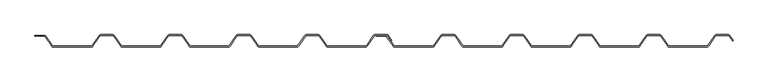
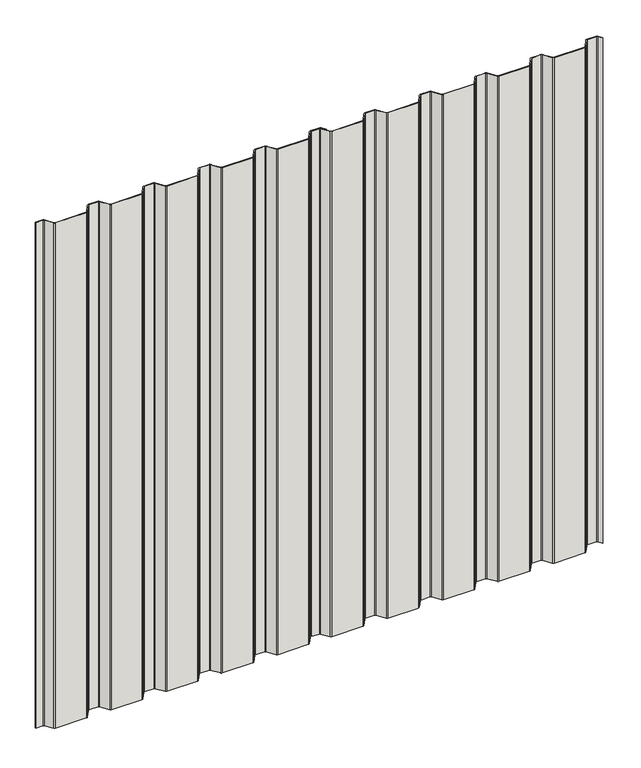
"""IFC4 building model written with IfcOpenShell, lengths in millimetres: wall geometry, Curtain Wall:21_CW_gevelbeplating_SAB35_1035:60482 : Curtain Wall:21_CW_gevelbeplating_SAB35_1035:60482."""

import ifcopenshell
import ifcopenshell.guid

model = None  # the IFC model being written
_history = None  # IfcOwnerHistory: only IFC2X3 demands one
_inside = {}  # id of a spatial element -> (the spatial element, [elements in it])
_under = {}  # id of a project, library or spatial element -> (it, [spatial elements below it])
_declared = {}  # id of a project -> (the project, [libraries it declares])
_typed = {}  # id of a type object -> (the type object, [elements of that type])
_made_of = {}  # id of a material, layer set ... -> (it, [elements and type objects made of it])


def new_model(schema):
    """Start an empty IFC model of exactly this schema.

    Asked for "IFC4X3", IfcOpenShell would pick the latest addendum, in which some entities
    have other attributes; the version numbers below select the first issue.
    IFC2X3 requires an IfcOwnerHistory on every rooted entity: one is made here for all.
    """
    global model, _history
    if schema == "IFC4X3":
        model = ifcopenshell.file(schema_version=(4, 3, 0, 0))
    else:
        model = ifcopenshell.file(schema=schema)
    _inside.clear()
    _under.clear()
    _declared.clear()
    _typed.clear()
    _made_of.clear()
    _history = None
    if model.schema == "IFC2X3":
        org = make("IfcOrganization", Name="unknown")
        user = make(
            "IfcPersonAndOrganization",
            ThePerson=make("IfcPerson", FamilyName="unknown"),
            TheOrganization=org,
        )
        app = make(
            "IfcApplication",
            ApplicationDeveloper=org,
            Version="unknown",
            ApplicationFullName="unknown",
            ApplicationIdentifier="unknown",
        )
        _history = make(
            "IfcOwnerHistory",
            OwningUser=user,
            OwningApplication=app,
            ChangeAction="ADDED",
            CreationDate=0,
        )
    return model


def make(cls, **values):
    """One entity of the class cls with the attributes given. An attribute that is None is left unset."""
    return model.create_entity(
        cls, **{name: value for name, value in values.items() if value is not None}
    )


def rooted(cls, **values):
    """An entity with a GlobalId (a new one), such as an element, a storey or a relation."""
    return make(cls, GlobalId=ifcopenshell.guid.new(), OwnerHistory=_history, **values)


def si_unit(unit_type, name, prefix=None):
    """IfcSIUnit, for example si_unit("LENGTHUNIT", "METRE", prefix="MILLI")."""
    return make("IfcSIUnit", UnitType=unit_type, Prefix=prefix, Name=name)


def assignment(units):
    """IfcUnitAssignment: the units of a project."""
    return None if units is None else make("IfcUnitAssignment", Units=units)


def point(xyz):
    """IfcCartesianPoint."""
    return None if xyz is None else make("IfcCartesianPoint", Coordinates=xyz)


def direction(xyz):
    """IfcDirection."""
    return None if xyz is None else make("IfcDirection", DirectionRatios=xyz)


def frame(location, z_axis=None, x_axis=None):
    """IfcAxis2Placement3D, a coordinate frame: its origin and axes. An axis left out is left unset."""
    return make(
        "IfcAxis2Placement3D",
        Location=point(location),
        Axis=direction(z_axis),
        RefDirection=direction(x_axis),
    )


def frame_2d(location, x_axis=None):
    """IfcAxis2Placement2D, a coordinate frame in the plane: its origin and x axis."""
    return make(
        "IfcAxis2Placement2D", Location=point(location), RefDirection=direction(x_axis)
    )


def origin():
    """The frame at (0, 0, 0) with its axes left unset."""
    return frame((0.0, 0.0, 0.0))


def origin_with_axes():
    """The frame at (0, 0, 0) with the z axis (0, 0, 1) and the x axis (1, 0, 0) written out."""
    return frame((0.0, 0.0, 0.0), z_axis=(0.0, 0.0, 1.0), x_axis=(1.0, 0.0, 0.0))


def place(relative_to, where):
    """IfcLocalPlacement: puts the frame where relative to a parent placement (None: the world)."""
    return make(
        "IfcLocalPlacement", PlacementRelTo=relative_to, RelativePlacement=where
    )


def context(
    kind, dimensions, precision=None, world=None, true_north=None, identifier=None
):
    """IfcGeometricRepresentationContext, for example the 3D "Model" context."""
    return make(
        "IfcGeometricRepresentationContext",
        ContextIdentifier=identifier,
        ContextType=kind,
        CoordinateSpaceDimension=dimensions,
        Precision=precision,
        WorldCoordinateSystem=world,
        TrueNorth=true_north,
    )


def project(units=None, contexts=None):
    """IfcProject with its units and contexts."""
    return rooted(
        "IfcProject",
        Name="project",
        RepresentationContexts=contexts,
        UnitsInContext=assignment(units),
    )


def spatial(cls, under=None, at=None, **own):
    """A site, building, storey or space (cls), placed at a placement, below another one or the project."""
    s = rooted(cls, ObjectPlacement=at, **own)
    if under is not None:
        _under.setdefault(under.id(), (under, []))[1].append(s)
    return s


def polyline(points):
    """IfcPolyline through the points."""
    return make("IfcPolyline", Points=[point(p) for p in points])


def circle_curve(where, radius):
    """IfcCircle in the frame where."""
    return make("IfcCircle", Position=where, Radius=radius)


def trimmed(basis, trim1, trim2, sense, master):
    """IfcTrimmedCurve: the piece of a basis curve between two trims."""
    return make(
        "IfcTrimmedCurve",
        BasisCurve=basis,
        Trim1=trim1,
        Trim2=trim2,
        SenseAgreement=sense,
        MasterRepresentation=master,
    )


def segment(curve, same_sense, transition):
    """IfcCompositeCurveSegment."""
    return make(
        "IfcCompositeCurveSegment",
        Transition=transition,
        SameSense=same_sense,
        ParentCurve=curve,
    )


def composite_curve(segments, self_intersect=None):
    """IfcCompositeCurve: segments joined end to end."""
    return make("IfcCompositeCurve", Segments=segments, SelfIntersect=self_intersect)


def outline(outer, holes=None, kind="AREA"):
    """IfcArbitraryClosedProfileDef: a profile drawn as a closed curve; with holes, ...WithVoids."""
    if holes is None:
        return make("IfcArbitraryClosedProfileDef", ProfileType=kind, OuterCurve=outer)
    return make(
        "IfcArbitraryProfileDefWithVoids",
        ProfileType=kind,
        OuterCurve=outer,
        InnerCurves=holes,
    )


def extrude(swept, where, along, depth):
    """IfcExtrudedAreaSolid: the profile swept, set in the frame where, extruded along a direction by depth."""
    return make(
        "IfcExtrudedAreaSolid",
        SweptArea=swept,
        Position=where,
        ExtrudedDirection=direction(along),
        Depth=depth,
    )


def shape(context_of_items, identifier, shape_type, items):
    """IfcShapeRepresentation: the items that make up one representation, for example the "Body"."""
    return make(
        "IfcShapeRepresentation",
        ContextOfItems=context_of_items,
        RepresentationIdentifier=identifier,
        RepresentationType=shape_type,
        Items=items,
    )


def source(mapping_origin, context_of_items, identifier, shape_type, items):
    """IfcRepresentationMap: a shape defined once, which mapped items show again and again."""
    return make(
        "IfcRepresentationMap",
        MappingOrigin=mapping_origin,
        MappedRepresentation=shape(context_of_items, identifier, shape_type, items),
    )


def transform(
    local_origin,
    x_axis=None,
    y_axis=None,
    z_axis=None,
    scale=None,
    scale2=None,
    scale3=None,
    uniform=True,
):
    """IfcCartesianTransformationOperator3D, or its non-uniform kind. x_axis, y_axis, z_axis: its Axis1, 2, 3."""
    if uniform:
        return make(
            "IfcCartesianTransformationOperator3D",
            Axis1=direction(x_axis),
            Axis2=direction(y_axis),
            LocalOrigin=point(local_origin),
            Scale=scale,
            Axis3=direction(z_axis),
        )
    return make(
        "IfcCartesianTransformationOperator3DnonUniform",
        Axis1=direction(x_axis),
        Axis2=direction(y_axis),
        LocalOrigin=point(local_origin),
        Scale=scale,
        Axis3=direction(z_axis),
        Scale2=scale2,
        Scale3=scale3,
    )


def mapped(mapping_source, mapping_target):
    """IfcMappedItem: shows the shape of a source again, moved by a transform."""
    return make(
        "IfcMappedItem", MappingSource=mapping_source, MappingTarget=mapping_target
    )


def made_of(thing, what):
    """Note that an element or type object is made of a material, layer set ...; save() writes the relation."""
    if what is not None:
        _made_of.setdefault(what.id(), (what, []))[1].append(thing)
    return thing


def element(
    cls,
    number,
    at=None,
    inside=None,
    cuts=None,
    type_object=None,
    material=None,
    context=None,
    identifier="Body",
    shape_type=None,
    held_by="IfcProductDefinitionShape",
    body=None,
    shapes=None,
    **own,
):
    """One element of the class cls, such as IfcWall. Its Tag is "e" and its number.

    at: its placement. inside: the storey or other place that contains it. cuts: it is an
    opening in that element (IfcRelVoidsElement). A single representation is given by context,
    identifier, shape_type and body (its items); several are given by shapes. held_by: the class
    of the entity that holds the representations. save() writes the other relations.
    """
    e = rooted(cls, Tag="e%d" % number, ObjectPlacement=at, **own)
    if body is not None:
        shapes = [shape(context, identifier, shape_type, body)]
    if shapes is not None:
        e.Representation = make(held_by, Representations=shapes)
    if inside is not None:
        _inside.setdefault(inside.id(), (inside, []))[1].append(e)
    if cuts is not None:
        rooted(
            "IfcRelVoidsElement", RelatingBuildingElement=cuts, RelatedOpeningElement=e
        )
    if type_object is not None:
        _typed.setdefault(type_object.id(), (type_object, []))[1].append(e)
    return made_of(e, material)


def aggregate(whole, parts):
    """IfcRelAggregates: a whole, such as a stair, and the parts it consists of."""
    return rooted("IfcRelAggregates", RelatingObject=whole, RelatedObjects=parts)


def save(model, path):
    """Write the relations noted so far, then the file.

    IfcRelAggregates (storeys below a building ...), IfcRelContainedInSpatialStructure (elements
    in a storey), IfcRelDefinesByType, IfcRelAssociatesMaterial and IfcRelDeclares: one each for
    every whole, place, type object, material and project.
    """
    for whole, parts in _under.values():
        aggregate(whole, parts)
    for where, things in _inside.values():
        rooted(
            "IfcRelContainedInSpatialStructure",
            RelatedElements=things,
            RelatingStructure=where,
        )
    for kind, things in _typed.values():
        rooted("IfcRelDefinesByType", RelatedObjects=things, RelatingType=kind)
    for what, things in _made_of.values():
        rooted("IfcRelAssociatesMaterial", RelatedObjects=things, RelatingMaterial=what)
    for by, libraries in _declared.values():
        rooted("IfcRelDeclares", RelatingContext=by, RelatedDefinitions=libraries)
    model.write(path)


def wall_cce2b666(model_context):
    return source(origin(), model_context, "Body", "SweptSolid", [
        extrude(outline(composite_curve([segment(polyline([(11998.6150217, -14997.5159933), (11978.8906162, -14968.7512351)]), True, "CONTINUOUS"), segment(trimmed(circle_curve(frame_2d((11975.5799198, -14971.0214269)), 4.0142846), [point((11978.8906162, -14968.7512351))], [point((11975.5799198, -14967.0071423))], True, "CARTESIAN"), True, "CONTINUOUS"), segment(polyline([(11975.5799198, -14967.0071423), (11948.1162191, -14967.0071423), (11948.1162191, -14965.0), (11975.5799198, -14965.0)]), True, "CONTINUOUS"), segment(trimmed(circle_curve(frame_2d((11975.5799198, -14971.0214269)), 6.0214269), [point((11975.5799198, -14965.0))], [point((11980.5459643, -14967.6161392))], False, "CARTESIAN"), True, "CONTINUOUS"), segment(polyline([(11980.5459643, -14967.6161392), (12000.2703699, -14996.3808974)]), True, "CONTINUOUS"), segment(trimmed(circle_curve(frame_2d((12003.5810662, -14994.1107056)), 4.0142846), [point((12000.2703699, -14996.3808974))], [point((12003.5810662, -14998.1249902))], True, "CARTESIAN"), True, "CONTINUOUS"), segment(polyline([(12003.5810662, -14998.1249902), (12119.0905941, -14998.1249902)]), True, "CONTINUOUS"), segment(trimmed(circle_curve(frame_2d((12119.0905941, -14994.1107056)), 4.0142846), [point((12119.0905941, -14998.1249902))], [point((12122.4012904, -14996.3808974))], True, "CARTESIAN"), True, "CONTINUOUS"), segment(polyline([(12122.4012904, -14996.3808974), (12143.4971246, -14965.6161392)]), True, "CONTINUOUS"), segment(trimmed(circle_curve(frame_2d((12148.4631691, -14969.0214269)), 6.0214269), [point((12143.4971246, -14965.6161392))], [point((12148.4631691, -14963.0))], False, "CARTESIAN"), True, "CONTINUOUS"), segment(polyline([(12148.4631691, -14963.0), (12183.3191476, -14963.0)]), True, "CONTINUOUS"), segment(trimmed(circle_curve(frame_2d((12183.3191476, -14969.0214269)), 6.0214269), [point((12183.3191476, -14963.0))], [point((12188.2851921, -14965.6161392))], False, "CARTESIAN"), True, "CONTINUOUS"), segment(polyline([(12188.2851921, -14965.6161392), (12209.3810262, -14996.3808974)]), True, "CONTINUOUS"), segment(trimmed(circle_curve(frame_2d((12212.6917226, -14994.1107056)), 4.0142846), [point((12209.3810262, -14996.3808974))], [point((12212.6917226, -14998.1249902))], True, "CARTESIAN"), True, "CONTINUOUS"), segment(polyline([(12212.6917226, -14998.1249902), (12326.8298219, -14998.1249902)]), True, "CONTINUOUS"), segment(trimmed(circle_curve(frame_2d((12326.8298219, -14994.1107056)), 4.0142846), [point((12326.8298219, -14998.1249902))], [point((12330.1405182, -14996.3808974))], True, "CARTESIAN"), True, "CONTINUOUS"), segment(polyline([(12330.1405182, -14996.3808974), (12351.2363523, -14965.6161392)]), True, "CONTINUOUS"), segment(trimmed(circle_curve(frame_2d((12356.2023968, -14969.0214269)), 6.0214269), [point((12351.2363523, -14965.6161392))], [point((12356.2023968, -14963.0))], False, "CARTESIAN"), True, "CONTINUOUS"), segment(polyline([(12356.2023968, -14963.0), (12391.0583754, -14963.0)]), True, "CONTINUOUS"), segment(trimmed(circle_curve(frame_2d((12391.0583754, -14969.0214269)), 6.0214269), [point((12391.0583754, -14963.0))], [point((12396.0244199, -14965.6161392))], False, "CARTESIAN"), True, "CONTINUOUS"), segment(polyline([(12396.0244199, -14965.6161392), (12417.120254, -14996.3808974)]), True, "CONTINUOUS"), segment(trimmed(circle_curve(frame_2d((12420.4309503, -14994.1107056)), 4.0142846), [point((12417.120254, -14996.3808974))], [point((12420.4309503, -14998.1249902))], True, "CARTESIAN"), True, "CONTINUOUS"), segment(polyline([(12420.4309503, -14998.1249902), (12534.5690497, -14998.1249902)]), True, "CONTINUOUS"), segment(trimmed(circle_curve(frame_2d((12534.5690497, -14994.1107056)), 4.0142846), [point((12534.5690497, -14998.1249902))], [point((12537.879746, -14996.3808974))], True, "CARTESIAN"), True, "CONTINUOUS"), segment(polyline([(12537.879746, -14996.3808974), (12558.9755801, -14965.6161392)]), True, "CONTINUOUS"), segment(trimmed(circle_curve(frame_2d((12563.9416246, -14969.0214269)), 6.0214269), [point((12558.9755801, -14965.6161392))], [point((12563.9416246, -14963.0))], False, "CARTESIAN"), True, "CONTINUOUS"), segment(polyline([(12563.9416246, -14963.0), (12598.7976032, -14963.0)]), True, "CONTINUOUS"), segment(trimmed(circle_curve(frame_2d((12598.7976032, -14969.0214269)), 6.0214269), [point((12598.7976032, -14963.0))], [point((12603.7636477, -14965.6161392))], False, "CARTESIAN"), True, "CONTINUOUS"), segment(polyline([(12603.7636477, -14965.6161392), (12624.8594818, -14996.3808974)]), True, "CONTINUOUS"), segment(trimmed(circle_curve(frame_2d((12628.1701781, -14994.1107056)), 4.0142846), [point((12624.8594818, -14996.3808974))], [point((12628.1701781, -14998.1249902))], True, "CARTESIAN"), True, "CONTINUOUS"), segment(polyline([(12628.1701781, -14998.1249902), (12742.3082774, -14998.1249902)]), True, "CONTINUOUS"), segment(trimmed(circle_curve(frame_2d((12742.3082774, -14994.1107056)), 4.0142846), [point((12742.3082774, -14998.1249902))], [point((12745.6189738, -14996.3808974))], True, "CARTESIAN"), True, "CONTINUOUS"), segment(polyline([(12745.6189738, -14996.3808974), (12766.7148079, -14965.6161392)]), True, "CONTINUOUS"), segment(trimmed(circle_curve(frame_2d((12771.6808524, -14969.0214269)), 6.0214269), [point((12766.7148079, -14965.6161392))], [point((12771.6808524, -14963.0))], False, "CARTESIAN"), True, "CONTINUOUS"), segment(polyline([(12771.6808524, -14963.0), (12806.5368309, -14963.0)]), True, "CONTINUOUS"), segment(trimmed(circle_curve(frame_2d((12806.5368309, -14969.0214269)), 6.0214269), [point((12806.5368309, -14963.0))], [point((12811.5028754, -14965.6161392))], False, "CARTESIAN"), True, "CONTINUOUS"), segment(polyline([(12811.5028754, -14965.6161392), (12832.5987096, -14996.3808974)]), True, "CONTINUOUS"), segment(trimmed(circle_curve(frame_2d((12835.9094059, -14994.1107056)), 4.0142846), [point((12832.5987096, -14996.3808974))], [point((12835.9094059, -14998.1249902))], True, "CARTESIAN"), True, "CONTINUOUS"), segment(polyline([(12835.9094059, -14998.1249902), (12950.0475052, -14998.1249902)]), True, "CONTINUOUS"), segment(trimmed(circle_curve(frame_2d((12950.0475052, -14994.1107056)), 4.0142846), [point((12950.0475052, -14998.1249902))], [point((12953.3582015, -14996.3808974))], True, "CARTESIAN"), True, "CONTINUOUS"), segment(polyline([(12953.3582015, -14996.3808974), (12974.4540357, -14965.6161392)]), True, "CONTINUOUS"), segment(trimmed(circle_curve(frame_2d((12979.4200802, -14969.0214269)), 6.0214269), [point((12974.4540357, -14965.6161392))], [point((12979.4200802, -14963.0))], False, "CARTESIAN"), True, "CONTINUOUS"), segment(polyline([(12979.4200802, -14963.0), (13014.2760587, -14963.0)]), True, "CONTINUOUS"), segment(trimmed(circle_curve(frame_2d((13014.2760587, -14969.0214269)), 6.0214269), [point((13014.2760587, -14963.0))], [point((13019.2421032, -14965.6161392))], False, "CARTESIAN"), True, "CONTINUOUS"), segment(polyline([(13019.2421032, -14965.6161392), (13029.5309708, -14980.6207378), (13027.8756226, -14981.7558337), (13017.5867551, -14966.7512351)]), True, "CONTINUOUS"), segment(trimmed(circle_curve(frame_2d((13014.2760587, -14969.0214269)), 4.0142846), [point((13017.5867551, -14966.7512351))], [point((13014.2760587, -14965.0071423))], True, "CARTESIAN"), True, "CONTINUOUS"), segment(polyline([(13014.2760587, -14965.0071423), (12979.4200802, -14965.0071423)]), True, "CONTINUOUS"), segment(trimmed(circle_curve(frame_2d((12979.4200802, -14969.0214269)), 4.0142846), [point((12979.4200802, -14965.0071423))], [point((12976.1093838, -14966.7512351))], True, "CARTESIAN"), True, "CONTINUOUS"), segment(polyline([(12976.1093838, -14966.7512351), (12955.0135497, -14997.5159933)]), True, "CONTINUOUS"), segment(trimmed(circle_curve(frame_2d((12950.0475052, -14994.1107056)), 6.0214269), [point((12955.0135497, -14997.5159933))], [point((12950.0475052, -15000.1321325))], False, "CARTESIAN"), True, "CONTINUOUS"), segment(polyline([(12950.0475052, -15000.1321325), (12835.9094059, -15000.1321325)]), True, "CONTINUOUS"), segment(trimmed(circle_curve(frame_2d((12835.9094059, -14994.1107056)), 6.0214269), [point((12835.9094059, -15000.1321325))], [point((12830.9433614, -14997.5159933))], False, "CARTESIAN"), True, "CONTINUOUS"), segment(polyline([(12830.9433614, -14997.5159933), (12809.8475273, -14966.7512351)]), True, "CONTINUOUS"), segment(trimmed(circle_curve(frame_2d((12806.5368309, -14969.0214269)), 4.0142846), [point((12809.8475273, -14966.7512351))], [point((12806.5368309, -14965.0071423))], True, "CARTESIAN"), True, "CONTINUOUS"), segment(polyline([(12806.5368309, -14965.0071423), (12771.6808524, -14965.0071423)]), True, "CONTINUOUS"), segment(trimmed(circle_curve(frame_2d((12771.6808524, -14969.0214269)), 4.0142846), [point((12771.6808524, -14965.0071423))], [point((12768.3701561, -14966.7512351))], True, "CARTESIAN"), True, "CONTINUOUS"), segment(polyline([(12768.3701561, -14966.7512351), (12747.2743219, -14997.5159933)]), True, "CONTINUOUS"), segment(trimmed(circle_curve(frame_2d((12742.3082774, -14994.1107056)), 6.0214269), [point((12747.2743219, -14997.5159933))], [point((12742.3082774, -15000.1321325))], False, "CARTESIAN"), True, "CONTINUOUS"), segment(polyline([(12742.3082774, -15000.1321325), (12628.1701781, -15000.1321325)]), True, "CONTINUOUS"), segment(trimmed(circle_curve(frame_2d((12628.1701781, -14994.1107056)), 6.0214269), [point((12628.1701781, -15000.1321325))], [point((12623.2041336, -14997.5159933))], False, "CARTESIAN"), True, "CONTINUOUS"), segment(polyline([(12623.2041336, -14997.5159933), (12602.1082995, -14966.7512351)]), True, "CONTINUOUS"), segment(trimmed(circle_curve(frame_2d((12598.7976032, -14969.0214269)), 4.0142846), [point((12602.1082995, -14966.7512351))], [point((12598.7976032, -14965.0071423))], True, "CARTESIAN"), True, "CONTINUOUS"), segment(polyline([(12598.7976032, -14965.0071423), (12563.9416246, -14965.0071423)]), True, "CONTINUOUS"), segment(trimmed(circle_curve(frame_2d((12563.9416246, -14969.0214269)), 4.0142846), [point((12563.9416246, -14965.0071423))], [point((12560.6309283, -14966.7512351))], True, "CARTESIAN"), True, "CONTINUOUS"), segment(polyline([(12560.6309283, -14966.7512351), (12539.5350941, -14997.5159933)]), True, "CONTINUOUS"), segment(trimmed(circle_curve(frame_2d((12534.5690497, -14994.1107056)), 6.0214269), [point((12539.5350941, -14997.5159933))], [point((12534.5690497, -15000.1321325))], False, "CARTESIAN"), True, "CONTINUOUS"), segment(polyline([(12534.5690497, -15000.1321325), (12420.4309503, -15000.1321325)]), True, "CONTINUOUS"), segment(trimmed(circle_curve(frame_2d((12420.4309503, -14994.1107056)), 6.0214269), [point((12420.4309503, -15000.1321325))], [point((12415.4649059, -14997.5159933))], False, "CARTESIAN"), True, "CONTINUOUS"), segment(polyline([(12415.4649059, -14997.5159933), (12394.3690717, -14966.7512351)]), True, "CONTINUOUS"), segment(trimmed(circle_curve(frame_2d((12391.0583754, -14969.0214269)), 4.0142846), [point((12394.3690717, -14966.7512351))], [point((12391.0583754, -14965.0071423))], True, "CARTESIAN"), True, "CONTINUOUS"), segment(polyline([(12391.0583754, -14965.0071423), (12356.2023968, -14965.0071423)]), True, "CONTINUOUS"), segment(trimmed(circle_curve(frame_2d((12356.2023968, -14969.0214269)), 4.0142846), [point((12356.2023968, -14965.0071423))], [point((12352.8917005, -14966.7512351))], True, "CARTESIAN"), True, "CONTINUOUS"), segment(polyline([(12352.8917005, -14966.7512351), (12331.7958664, -14997.5159933)]), True, "CONTINUOUS"), segment(trimmed(circle_curve(frame_2d((12326.8298219, -14994.1107056)), 6.0214269), [point((12331.7958664, -14997.5159933))], [point((12326.8298219, -15000.1321325))], False, "CARTESIAN"), True, "CONTINUOUS"), segment(polyline([(12326.8298219, -15000.1321325), (12212.6917226, -15000.1321325)]), True, "CONTINUOUS"), segment(trimmed(circle_curve(frame_2d((12212.6917226, -14994.1107056)), 6.0214269), [point((12212.6917226, -15000.1321325))], [point((12207.7256781, -14997.5159933))], False, "CARTESIAN"), True, "CONTINUOUS"), segment(polyline([(12207.7256781, -14997.5159933), (12186.6298439, -14966.7512351)]), True, "CONTINUOUS"), segment(trimmed(circle_curve(frame_2d((12183.3191476, -14969.0214269)), 4.0142846), [point((12186.6298439, -14966.7512351))], [point((12183.3191476, -14965.0071423))], True, "CARTESIAN"), True, "CONTINUOUS"), segment(polyline([(12183.3191476, -14965.0071423), (12148.4631691, -14965.0071423)]), True, "CONTINUOUS"), segment(trimmed(circle_curve(frame_2d((12148.4631691, -14969.0214269)), 4.0142846), [point((12148.4631691, -14965.0071423))], [point((12145.1524727, -14966.7512351))], True, "CARTESIAN"), True, "CONTINUOUS"), segment(polyline([(12145.1524727, -14966.7512351), (12124.0566386, -14997.5159933)]), True, "CONTINUOUS"), segment(trimmed(circle_curve(frame_2d((12119.0905941, -14994.1107056)), 6.0214269), [point((12124.0566386, -14997.5159933))], [point((12119.0905941, -15000.1321325))], False, "CARTESIAN"), True, "CONTINUOUS"), segment(polyline([(12119.0905941, -15000.1321325), (12003.5810662, -15000.1321325)]), True, "CONTINUOUS"), segment(trimmed(circle_curve(frame_2d((12003.5810662, -14994.1107056)), 6.0214269), [point((12003.5810662, -15000.1321325))], [point((11998.6150217, -14997.5159933))], False, "CARTESIAN"), True, "CONTINUOUS")], self_intersect=False)), origin_with_axes(), (0.0, 0.0, 1.0), 2000.0),
        extrude(outline(composite_curve([segment(polyline([(13033.6150217, -14997.5159933), (13013.8906162, -14968.7512351)]), True, "CONTINUOUS"), segment(trimmed(circle_curve(frame_2d((13010.5799198, -14971.0214269)), 4.0142846), [point((13013.8906162, -14968.7512351))], [point((13010.5799198, -14967.0071423))], True, "CARTESIAN"), True, "CONTINUOUS"), segment(polyline([(13010.5799198, -14967.0071423), (12983.1162191, -14967.0071423), (12983.1162191, -14965.0), (13010.5799198, -14965.0)]), True, "CONTINUOUS"), segment(trimmed(circle_curve(frame_2d((13010.5799198, -14971.0214269)), 6.0214269), [point((13010.5799198, -14965.0))], [point((13015.5459643, -14967.6161392))], False, "CARTESIAN"), True, "CONTINUOUS"), segment(polyline([(13015.5459643, -14967.6161392), (13035.2703699, -14996.3808974)]), True, "CONTINUOUS"), segment(trimmed(circle_curve(frame_2d((13038.5810662, -14994.1107056)), 4.0142846), [point((13035.2703699, -14996.3808974))], [point((13038.5810662, -14998.1249902))], True, "CARTESIAN"), True, "CONTINUOUS"), segment(polyline([(13038.5810662, -14998.1249902), (13154.0905941, -14998.1249902)]), True, "CONTINUOUS"), segment(trimmed(circle_curve(frame_2d((13154.0905941, -14994.1107056)), 4.0142846), [point((13154.0905941, -14998.1249902))], [point((13157.4012904, -14996.3808974))], True, "CARTESIAN"), True, "CONTINUOUS"), segment(polyline([(13157.4012904, -14996.3808974), (13178.4971246, -14965.6161392)]), True, "CONTINUOUS"), segment(trimmed(circle_curve(frame_2d((13183.4631691, -14969.0214269)), 6.0214269), [point((13178.4971246, -14965.6161392))], [point((13183.4631691, -14963.0))], False, "CARTESIAN"), True, "CONTINUOUS"), segment(polyline([(13183.4631691, -14963.0), (13218.3191476, -14963.0)]), True, "CONTINUOUS"), segment(trimmed(circle_curve(frame_2d((13218.3191476, -14969.0214269)), 6.0214269), [point((13218.3191476, -14963.0))], [point((13223.2851921, -14965.6161392))], False, "CARTESIAN"), True, "CONTINUOUS"), segment(polyline([(13223.2851921, -14965.6161392), (13244.3810262, -14996.3808974)]), True, "CONTINUOUS"), segment(trimmed(circle_curve(frame_2d((13247.6917226, -14994.1107056)), 4.0142846), [point((13244.3810262, -14996.3808974))], [point((13247.6917226, -14998.1249902))], True, "CARTESIAN"), True, "CONTINUOUS"), segment(polyline([(13247.6917226, -14998.1249902), (13361.8298219, -14998.1249902)]), True, "CONTINUOUS"), segment(trimmed(circle_curve(frame_2d((13361.8298219, -14994.1107056)), 4.0142846), [point((13361.8298219, -14998.1249902))], [point((13365.1405182, -14996.3808974))], True, "CARTESIAN"), True, "CONTINUOUS"), segment(polyline([(13365.1405182, -14996.3808974), (13386.2363523, -14965.6161392)]), True, "CONTINUOUS"), segment(trimmed(circle_curve(frame_2d((13391.2023968, -14969.0214269)), 6.0214269), [point((13386.2363523, -14965.6161392))], [point((13391.2023968, -14963.0))], False, "CARTESIAN"), True, "CONTINUOUS"), segment(polyline([(13391.2023968, -14963.0), (13426.0583754, -14963.0)]), True, "CONTINUOUS"), segment(trimmed(circle_curve(frame_2d((13426.0583754, -14969.0214269)), 6.0214269), [point((13426.0583754, -14963.0))], [point((13431.0244199, -14965.6161392))], False, "CARTESIAN"), True, "CONTINUOUS"), segment(polyline([(13431.0244199, -14965.6161392), (13452.120254, -14996.3808974)]), True, "CONTINUOUS"), segment(trimmed(circle_curve(frame_2d((13455.4309503, -14994.1107056)), 4.0142846), [point((13452.120254, -14996.3808974))], [point((13455.4309503, -14998.1249902))], True, "CARTESIAN"), True, "CONTINUOUS"), segment(polyline([(13455.4309503, -14998.1249902), (13569.5690497, -14998.1249902)]), True, "CONTINUOUS"), segment(trimmed(circle_curve(frame_2d((13569.5690497, -14994.1107056)), 4.0142846), [point((13569.5690497, -14998.1249902))], [point((13572.879746, -14996.3808974))], True, "CARTESIAN"), True, "CONTINUOUS"), segment(polyline([(13572.879746, -14996.3808974), (13593.9755801, -14965.6161392)]), True, "CONTINUOUS"), segment(trimmed(circle_curve(frame_2d((13598.9416246, -14969.0214269)), 6.0214269), [point((13593.9755801, -14965.6161392))], [point((13598.9416246, -14963.0))], False, "CARTESIAN"), True, "CONTINUOUS"), segment(polyline([(13598.9416246, -14963.0), (13633.7976032, -14963.0)]), True, "CONTINUOUS"), segment(trimmed(circle_curve(frame_2d((13633.7976032, -14969.0214269)), 6.0214269), [point((13633.7976032, -14963.0))], [point((13638.7636477, -14965.6161392))], False, "CARTESIAN"), True, "CONTINUOUS"), segment(polyline([(13638.7636477, -14965.6161392), (13659.8594818, -14996.3808974)]), True, "CONTINUOUS"), segment(trimmed(circle_curve(frame_2d((13663.1701781, -14994.1107056)), 4.0142846), [point((13659.8594818, -14996.3808974))], [point((13663.1701781, -14998.1249902))], True, "CARTESIAN"), True, "CONTINUOUS"), segment(polyline([(13663.1701781, -14998.1249902), (13777.3082774, -14998.1249902)]), True, "CONTINUOUS"), segment(trimmed(circle_curve(frame_2d((13777.3082774, -14994.1107056)), 4.0142846), [point((13777.3082774, -14998.1249902))], [point((13780.6189738, -14996.3808974))], True, "CARTESIAN"), True, "CONTINUOUS"), segment(polyline([(13780.6189738, -14996.3808974), (13801.7148079, -14965.6161392)]), True, "CONTINUOUS"), segment(trimmed(circle_curve(frame_2d((13806.6808524, -14969.0214269)), 6.0214269), [point((13801.7148079, -14965.6161392))], [point((13806.6808524, -14963.0))], False, "CARTESIAN"), True, "CONTINUOUS"), segment(polyline([(13806.6808524, -14963.0), (13841.5368309, -14963.0)]), True, "CONTINUOUS"), segment(trimmed(circle_curve(frame_2d((13841.5368309, -14969.0214269)), 6.0214269), [point((13841.5368309, -14963.0))], [point((13846.5028754, -14965.6161392))], False, "CARTESIAN"), True, "CONTINUOUS"), segment(polyline([(13846.5028754, -14965.6161392), (13867.5987096, -14996.3808974)]), True, "CONTINUOUS"), segment(trimmed(circle_curve(frame_2d((13870.9094059, -14994.1107056)), 4.0142846), [point((13867.5987096, -14996.3808974))], [point((13870.9094059, -14998.1249902))], True, "CARTESIAN"), True, "CONTINUOUS"), segment(polyline([(13870.9094059, -14998.1249902), (13985.0475052, -14998.1249902)]), True, "CONTINUOUS"), segment(trimmed(circle_curve(frame_2d((13985.0475052, -14994.1107056)), 4.0142846), [point((13985.0475052, -14998.1249902))], [point((13988.3582015, -14996.3808974))], True, "CARTESIAN"), True, "CONTINUOUS"), segment(polyline([(13988.3582015, -14996.3808974), (14009.4540357, -14965.6161392)]), True, "CONTINUOUS"), segment(trimmed(circle_curve(frame_2d((14014.4200802, -14969.0214269)), 6.0214269), [point((14009.4540357, -14965.6161392))], [point((14014.4200802, -14963.0))], False, "CARTESIAN"), True, "CONTINUOUS"), segment(polyline([(14014.4200802, -14963.0), (14049.2760587, -14963.0)]), True, "CONTINUOUS"), segment(trimmed(circle_curve(frame_2d((14049.2760587, -14969.0214269)), 6.0214269), [point((14049.2760587, -14963.0))], [point((14054.2421032, -14965.6161392))], False, "CARTESIAN"), True, "CONTINUOUS"), segment(polyline([(14054.2421032, -14965.6161392), (14064.5309708, -14980.6207378), (14062.8756226, -14981.7558337), (14052.5867551, -14966.7512351)]), True, "CONTINUOUS"), segment(trimmed(circle_curve(frame_2d((14049.2760587, -14969.0214269)), 4.0142846), [point((14052.5867551, -14966.7512351))], [point((14049.2760587, -14965.0071423))], True, "CARTESIAN"), True, "CONTINUOUS"), segment(polyline([(14049.2760587, -14965.0071423), (14014.4200802, -14965.0071423)]), True, "CONTINUOUS"), segment(trimmed(circle_curve(frame_2d((14014.4200802, -14969.0214269)), 4.0142846), [point((14014.4200802, -14965.0071423))], [point((14011.1093838, -14966.7512351))], True, "CARTESIAN"), True, "CONTINUOUS"), segment(polyline([(14011.1093838, -14966.7512351), (13990.0135497, -14997.5159933)]), True, "CONTINUOUS"), segment(trimmed(circle_curve(frame_2d((13985.0475052, -14994.1107056)), 6.0214269), [point((13990.0135497, -14997.5159933))], [point((13985.0475052, -15000.1321325))], False, "CARTESIAN"), True, "CONTINUOUS"), segment(polyline([(13985.0475052, -15000.1321325), (13870.9094059, -15000.1321325)]), True, "CONTINUOUS"), segment(trimmed(circle_curve(frame_2d((13870.9094059, -14994.1107056)), 6.0214269), [point((13870.9094059, -15000.1321325))], [point((13865.9433614, -14997.5159933))], False, "CARTESIAN"), True, "CONTINUOUS"), segment(polyline([(13865.9433614, -14997.5159933), (13844.8475273, -14966.7512351)]), True, "CONTINUOUS"), segment(trimmed(circle_curve(frame_2d((13841.5368309, -14969.0214269)), 4.0142846), [point((13844.8475273, -14966.7512351))], [point((13841.5368309, -14965.0071423))], True, "CARTESIAN"), True, "CONTINUOUS"), segment(polyline([(13841.5368309, -14965.0071423), (13806.6808524, -14965.0071423)]), True, "CONTINUOUS"), segment(trimmed(circle_curve(frame_2d((13806.6808524, -14969.0214269)), 4.0142846), [point((13806.6808524, -14965.0071423))], [point((13803.3701561, -14966.7512351))], True, "CARTESIAN"), True, "CONTINUOUS"), segment(polyline([(13803.3701561, -14966.7512351), (13782.2743219, -14997.5159933)]), True, "CONTINUOUS"), segment(trimmed(circle_curve(frame_2d((13777.3082774, -14994.1107056)), 6.0214269), [point((13782.2743219, -14997.5159933))], [point((13777.3082774, -15000.1321325))], False, "CARTESIAN"), True, "CONTINUOUS"), segment(polyline([(13777.3082774, -15000.1321325), (13663.1701781, -15000.1321325)]), True, "CONTINUOUS"), segment(trimmed(circle_curve(frame_2d((13663.1701781, -14994.1107056)), 6.0214269), [point((13663.1701781, -15000.1321325))], [point((13658.2041336, -14997.5159933))], False, "CARTESIAN"), True, "CONTINUOUS"), segment(polyline([(13658.2041336, -14997.5159933), (13637.1082995, -14966.7512351)]), True, "CONTINUOUS"), segment(trimmed(circle_curve(frame_2d((13633.7976032, -14969.0214269)), 4.0142846), [point((13637.1082995, -14966.7512351))], [point((13633.7976032, -14965.0071423))], True, "CARTESIAN"), True, "CONTINUOUS"), segment(polyline([(13633.7976032, -14965.0071423), (13598.9416246, -14965.0071423)]), True, "CONTINUOUS"), segment(trimmed(circle_curve(frame_2d((13598.9416246, -14969.0214269)), 4.0142846), [point((13598.9416246, -14965.0071423))], [point((13595.6309283, -14966.7512351))], True, "CARTESIAN"), True, "CONTINUOUS"), segment(polyline([(13595.6309283, -14966.7512351), (13574.5350941, -14997.5159933)]), True, "CONTINUOUS"), segment(trimmed(circle_curve(frame_2d((13569.5690497, -14994.1107056)), 6.0214269), [point((13574.5350941, -14997.5159933))], [point((13569.5690497, -15000.1321325))], False, "CARTESIAN"), True, "CONTINUOUS"), segment(polyline([(13569.5690497, -15000.1321325), (13455.4309503, -15000.1321325)]), True, "CONTINUOUS"), segment(trimmed(circle_curve(frame_2d((13455.4309503, -14994.1107056)), 6.0214269), [point((13455.4309503, -15000.1321325))], [point((13450.4649059, -14997.5159933))], False, "CARTESIAN"), True, "CONTINUOUS"), segment(polyline([(13450.4649059, -14997.5159933), (13429.3690717, -14966.7512351)]), True, "CONTINUOUS"), segment(trimmed(circle_curve(frame_2d((13426.0583754, -14969.0214269)), 4.0142846), [point((13429.3690717, -14966.7512351))], [point((13426.0583754, -14965.0071423))], True, "CARTESIAN"), True, "CONTINUOUS"), segment(polyline([(13426.0583754, -14965.0071423), (13391.2023968, -14965.0071423)]), True, "CONTINUOUS"), segment(trimmed(circle_curve(frame_2d((13391.2023968, -14969.0214269)), 4.0142846), [point((13391.2023968, -14965.0071423))], [point((13387.8917005, -14966.7512351))], True, "CARTESIAN"), True, "CONTINUOUS"), segment(polyline([(13387.8917005, -14966.7512351), (13366.7958664, -14997.5159933)]), True, "CONTINUOUS"), segment(trimmed(circle_curve(frame_2d((13361.8298219, -14994.1107056)), 6.0214269), [point((13366.7958664, -14997.5159933))], [point((13361.8298219, -15000.1321325))], False, "CARTESIAN"), True, "CONTINUOUS"), segment(polyline([(13361.8298219, -15000.1321325), (13247.6917226, -15000.1321325)]), True, "CONTINUOUS"), segment(trimmed(circle_curve(frame_2d((13247.6917226, -14994.1107056)), 6.0214269), [point((13247.6917226, -15000.1321325))], [point((13242.7256781, -14997.5159933))], False, "CARTESIAN"), True, "CONTINUOUS"), segment(polyline([(13242.7256781, -14997.5159933), (13221.6298439, -14966.7512351)]), True, "CONTINUOUS"), segment(trimmed(circle_curve(frame_2d((13218.3191476, -14969.0214269)), 4.0142846), [point((13221.6298439, -14966.7512351))], [point((13218.3191476, -14965.0071423))], True, "CARTESIAN"), True, "CONTINUOUS"), segment(polyline([(13218.3191476, -14965.0071423), (13183.4631691, -14965.0071423)]), True, "CONTINUOUS"), segment(trimmed(circle_curve(frame_2d((13183.4631691, -14969.0214269)), 4.0142846), [point((13183.4631691, -14965.0071423))], [point((13180.1524727, -14966.7512351))], True, "CARTESIAN"), True, "CONTINUOUS"), segment(polyline([(13180.1524727, -14966.7512351), (13159.0566386, -14997.5159933)]), True, "CONTINUOUS"), segment(trimmed(circle_curve(frame_2d((13154.0905941, -14994.1107056)), 6.0214269), [point((13159.0566386, -14997.5159933))], [point((13154.0905941, -15000.1321325))], False, "CARTESIAN"), True, "CONTINUOUS"), segment(polyline([(13154.0905941, -15000.1321325), (13038.5810662, -15000.1321325)]), True, "CONTINUOUS"), segment(trimmed(circle_curve(frame_2d((13038.5810662, -14994.1107056)), 6.0214269), [point((13038.5810662, -15000.1321325))], [point((13033.6150217, -14997.5159933))], False, "CARTESIAN"), True, "CONTINUOUS")], self_intersect=False)), origin_with_axes(), (0.0, 0.0, 1.0), 2000.0),
    ])


if __name__ == "__main__":
    model = new_model("IFC4")
    model_context = context("Model", 3, world=origin())
    ifc_project = project(units=[si_unit("LENGTHUNIT", "METRE", prefix="MILLI")], contexts=[model_context])
    site = spatial("IfcSite", under=ifc_project)
    building = spatial("IfcBuilding", under=site)
    placement = place(None, origin())
    wall_shape = wall_cce2b666(model_context)
    element("IfcWall", 1, ObjectType="Curtain Wall:21_CW_gevelbeplating_SAB35_1035:60482 : Curtain Wall:21_CW_gevelbeplating_SAB35_1035:60482", at=placement, inside=building, context=model_context, shape_type="MappedRepresentation", body=[
        mapped(wall_shape, transform((0.0, 0.0, 0.0), x_axis=(1.0, 0.0, 0.0), y_axis=(0.0, 1.0, 0.0), z_axis=(0.0, 0.0, 1.0))),
    ])
    save(model, "model.ifc")
